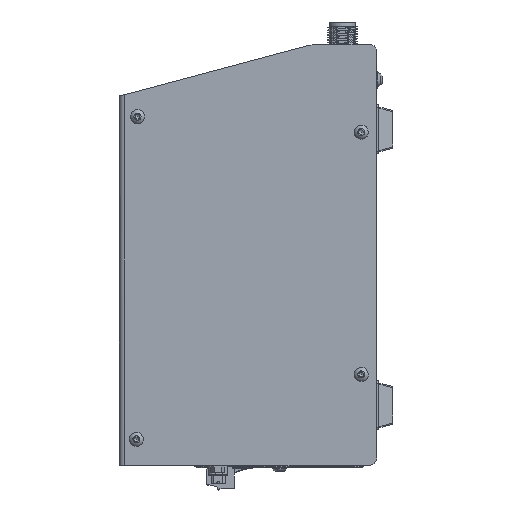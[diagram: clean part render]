
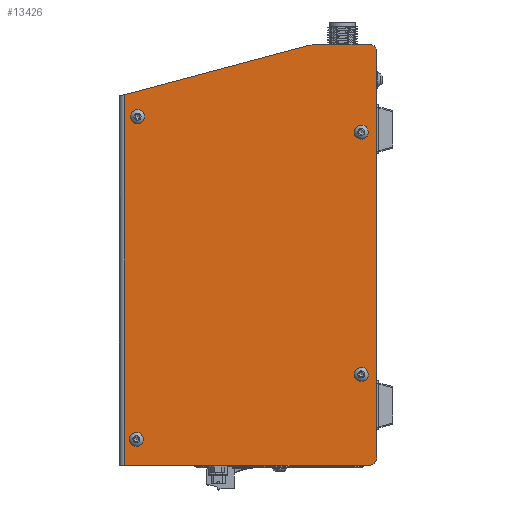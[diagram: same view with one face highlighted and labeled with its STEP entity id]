
A CAD part, left-side view. The second image highlights one B-rep face of the part: STEP entity #13426.
In plain terms, the highlighted planar face has unit normal (-1, 0, 0).
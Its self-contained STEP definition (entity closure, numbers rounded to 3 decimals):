
#152 = CARTESIAN_POINT ( 'NONE',  ( -96.979, 3., 81.5 ) ) ;
#1434 = ORIENTED_EDGE ( 'NONE', *, *, #3900, .T. ) ;
#3054 = FACE_BOUND ( 'NONE', #32333, .T. ) ;
#3069 = ORIENTED_EDGE ( 'NONE', *, *, #28326, .T. ) ;
#3176 = VERTEX_POINT ( 'NONE', #30480 ) ;
#3878 = DIRECTION ( 'NONE',  ( -1., 0., 0. ) ) ;
#3900 = EDGE_CURVE ( 'NONE', #56025, #8945, #53369, .T. ) ;
#4641 = CARTESIAN_POINT ( 'NONE',  ( -96.979, 101.979, -85.7 ) ) ;
#4971 = CARTESIAN_POINT ( 'NONE',  ( -96.979, 3., 84.5 ) ) ;
#5575 = DIRECTION ( 'NONE',  ( 0., 0., 1. ) ) ;
#6207 = LINE ( 'NONE', #76097, #64392 ) ;
#6429 = ORIENTED_EDGE ( 'NONE', *, *, #27537, .T. ) ;
#6546 = EDGE_LOOP ( 'NONE', ( #62151 ) ) ;
#7412 = VECTOR ( 'NONE', #58477, 1000. ) ;
#8653 = DIRECTION ( 'NONE',  ( 0., 1., 0. ) ) ;
#8945 = VERTEX_POINT ( 'NONE', #29166 ) ;
#9322 = PLANE ( 'NONE',  #36898 ) ;
#10116 = LINE ( 'NONE', #43341, #7412 ) ;
#12028 = CARTESIAN_POINT ( 'NONE',  ( -96.979, 5.8, 48.989 ) ) ;
#13417 = CARTESIAN_POINT ( 'NONE',  ( -96.979, 5.8, -48.99 ) ) ;
#13426 = ADVANCED_FACE ( 'NONE', ( #50982, #51419, #45167, #3054, #17345 ), #9322, .F. ) ;
#13907 = VECTOR ( 'NONE', #5575, 1000. ) ;
#16497 = EDGE_CURVE ( 'NONE', #57236, #57236, #79112, .T. ) ;
#16889 = DIRECTION ( 'NONE',  ( 1., 0., 0. ) ) ;
#16943 = ORIENTED_EDGE ( 'NONE', *, *, #25836, .T. ) ;
#16988 = DIRECTION ( 'NONE',  ( 0., -1., 0. ) ) ;
#17341 = CARTESIAN_POINT ( 'NONE',  ( -96.979, 3., -82.7 ) ) ;
#17345 = FACE_OUTER_BOUND ( 'NONE', #34600, .T. ) ;
#21404 = EDGE_CURVE ( 'NONE', #61750, #60975, #10116, .T. ) ;
#21675 = CARTESIAN_POINT ( 'NONE',  ( -96.979, 5.8, 50.839 ) ) ;
#21820 = AXIS2_PLACEMENT_3D ( 'NONE', #17341, #84989, #71151 ) ;
#23212 = EDGE_CURVE ( 'NONE', #43405, #43405, #29009, .T. ) ;
#24160 = CARTESIAN_POINT ( 'NONE',  ( -96.979, 101.979, -85.7 ) ) ;
#25836 = EDGE_CURVE ( 'NONE', #34615, #61750, #53700, .T. ) ;
#25972 = DIRECTION ( 'NONE',  ( 0., 0., 1. ) ) ;
#26125 = CARTESIAN_POINT ( 'NONE',  ( -96.979, 0., -85.7 ) ) ;
#27537 = EDGE_CURVE ( 'NONE', #84468, #56025, #72159, .T. ) ;
#28326 = EDGE_CURVE ( 'NONE', #28500, #62328, #40764, .T. ) ;
#28500 = VERTEX_POINT ( 'NONE', #60458 ) ;
#28807 = DIRECTION ( 'NONE',  ( -1., 0., 0. ) ) ;
#29009 = CIRCLE ( 'NONE', #30445, 1.85 ) ;
#29166 = CARTESIAN_POINT ( 'NONE',  ( -96.979, 0., -82.7 ) ) ;
#30445 = AXIS2_PLACEMENT_3D ( 'NONE', #45538, #3878, #57653 ) ;
#30480 = CARTESIAN_POINT ( 'NONE',  ( -96.979, 96.9, -73.4 ) ) ;
#31969 = DIRECTION ( 'NONE',  ( 0., 0., 1. ) ) ;
#32333 = EDGE_LOOP ( 'NONE', ( #56411 ) ) ;
#34600 = EDGE_LOOP ( 'NONE', ( #50162, #3069, #65417, #16943, #85979, #34867, #6429, #1434 ) ) ;
#34615 = VERTEX_POINT ( 'NONE', #64454 ) ;
#34867 = ORIENTED_EDGE ( 'NONE', *, *, #62824, .F. ) ;
#35637 = AXIS2_PLACEMENT_3D ( 'NONE', #12028, #46533, #39376 ) ;
#35695 = CARTESIAN_POINT ( 'NONE',  ( -96.979, 23.113, 64.5 ) ) ;
#36653 = CARTESIAN_POINT ( 'NONE',  ( -96.979, 103., -85.7 ) ) ;
#36898 = AXIS2_PLACEMENT_3D ( 'NONE', #36653, #16889, #87664 ) ;
#38317 = CARTESIAN_POINT ( 'NONE',  ( -96.979, 28.29, 83.819 ) ) ;
#38674 = LINE ( 'NONE', #4641, #59246 ) ;
#39376 = DIRECTION ( 'NONE',  ( 0., 0., 1. ) ) ;
#39378 = AXIS2_PLACEMENT_3D ( 'NONE', #35695, #83158, #42432 ) ;
#40764 = CIRCLE ( 'NONE', #73728, 3. ) ;
#41946 = AXIS2_PLACEMENT_3D ( 'NONE', #13417, #67225, #25972 ) ;
#42432 = DIRECTION ( 'NONE',  ( 0., 0., -1. ) ) ;
#43341 = CARTESIAN_POINT ( 'NONE',  ( -96.979, 28.29, 83.819 ) ) ;
#43405 = VERTEX_POINT ( 'NONE', #70691 ) ;
#45167 = FACE_BOUND ( 'NONE', #6546, .T. ) ;
#45538 = CARTESIAN_POINT ( 'NONE',  ( -96.979, 96.7, 55.208 ) ) ;
#46533 = DIRECTION ( 'NONE',  ( -1., 0., 0. ) ) ;
#48381 = EDGE_CURVE ( 'NONE', #59227, #59227, #74297, .T. ) ;
#49630 = CARTESIAN_POINT ( 'NONE',  ( -96.979, 5.8, -47.14 ) ) ;
#50162 = ORIENTED_EDGE ( 'NONE', *, *, #83322, .T. ) ;
#50620 = EDGE_LOOP ( 'NONE', ( #69572 ) ) ;
#50982 = FACE_BOUND ( 'NONE', #87959, .T. ) ;
#51419 = FACE_BOUND ( 'NONE', #50620, .T. ) ;
#53369 = CIRCLE ( 'NONE', #21820, 3. ) ;
#53700 = CIRCLE ( 'NONE', #39378, 20. ) ;
#56025 = VERTEX_POINT ( 'NONE', #84672 ) ;
#56411 = ORIENTED_EDGE ( 'NONE', *, *, #48381, .F. ) ;
#57236 = VERTEX_POINT ( 'NONE', #49630 ) ;
#57653 = DIRECTION ( 'NONE',  ( 0., 0., 1. ) ) ;
#58477 = DIRECTION ( 'NONE',  ( 0., 0.966, -0.259 ) ) ;
#59227 = VERTEX_POINT ( 'NONE', #21675 ) ;
#59246 = VECTOR ( 'NONE', #31969, 1000. ) ;
#59400 = CIRCLE ( 'NONE', #73745, 1.85 ) ;
#59549 = CARTESIAN_POINT ( 'NONE',  ( -96.979, 103., -85.7 ) ) ;
#60458 = CARTESIAN_POINT ( 'NONE',  ( -96.979, 0., 81.5 ) ) ;
#60622 = ORIENTED_EDGE ( 'NONE', *, *, #23212, .F. ) ;
#60975 = VERTEX_POINT ( 'NONE', #82128 ) ;
#61728 = DIRECTION ( 'NONE',  ( 0., 1., 0. ) ) ;
#61750 = VERTEX_POINT ( 'NONE', #38317 ) ;
#62151 = ORIENTED_EDGE ( 'NONE', *, *, #72805, .F. ) ;
#62328 = VERTEX_POINT ( 'NONE', #4971 ) ;
#62824 = EDGE_CURVE ( 'NONE', #84468, #60975, #38674, .T. ) ;
#64392 = VECTOR ( 'NONE', #61728, 1000. ) ;
#64454 = CARTESIAN_POINT ( 'NONE',  ( -96.979, 23.113, 84.5 ) ) ;
#65417 = ORIENTED_EDGE ( 'NONE', *, *, #76340, .T. ) ;
#66934 = LINE ( 'NONE', #26125, #13907 ) ;
#67225 = DIRECTION ( 'NONE',  ( -1., 0., 0. ) ) ;
#69572 = ORIENTED_EDGE ( 'NONE', *, *, #16497, .F. ) ;
#70691 = CARTESIAN_POINT ( 'NONE',  ( -96.979, 96.7, 57.058 ) ) ;
#71151 = DIRECTION ( 'NONE',  ( 0., 1., 0. ) ) ;
#72159 = LINE ( 'NONE', #59549, #82264 ) ;
#72805 = EDGE_CURVE ( 'NONE', #3176, #3176, #59400, .T. ) ;
#73728 = AXIS2_PLACEMENT_3D ( 'NONE', #152, #28807, #8653 ) ;
#73745 = AXIS2_PLACEMENT_3D ( 'NONE', #80444, #87168, #73752 ) ;
#73752 = DIRECTION ( 'NONE',  ( 0., 0., 1. ) ) ;
#74297 = CIRCLE ( 'NONE', #35637, 1.85 ) ;
#76097 = CARTESIAN_POINT ( 'NONE',  ( -96.979, 0., 84.5 ) ) ;
#76340 = EDGE_CURVE ( 'NONE', #62328, #34615, #6207, .T. ) ;
#79112 = CIRCLE ( 'NONE', #41946, 1.85 ) ;
#80444 = CARTESIAN_POINT ( 'NONE',  ( -96.979, 96.9, -75.25 ) ) ;
#82128 = CARTESIAN_POINT ( 'NONE',  ( -96.979, 101.979, 64.074 ) ) ;
#82264 = VECTOR ( 'NONE', #16988, 1000. ) ;
#83158 = DIRECTION ( 'NONE',  ( -1., 0., 0. ) ) ;
#83322 = EDGE_CURVE ( 'NONE', #8945, #28500, #66934, .T. ) ;
#84468 = VERTEX_POINT ( 'NONE', #24160 ) ;
#84672 = CARTESIAN_POINT ( 'NONE',  ( -96.979, 3., -85.7 ) ) ;
#84989 = DIRECTION ( 'NONE',  ( -1., 0., 0. ) ) ;
#85979 = ORIENTED_EDGE ( 'NONE', *, *, #21404, .T. ) ;
#87168 = DIRECTION ( 'NONE',  ( -1., 0., 0. ) ) ;
#87664 = DIRECTION ( 'NONE',  ( 0., 0., -1. ) ) ;
#87959 = EDGE_LOOP ( 'NONE', ( #60622 ) ) ;
